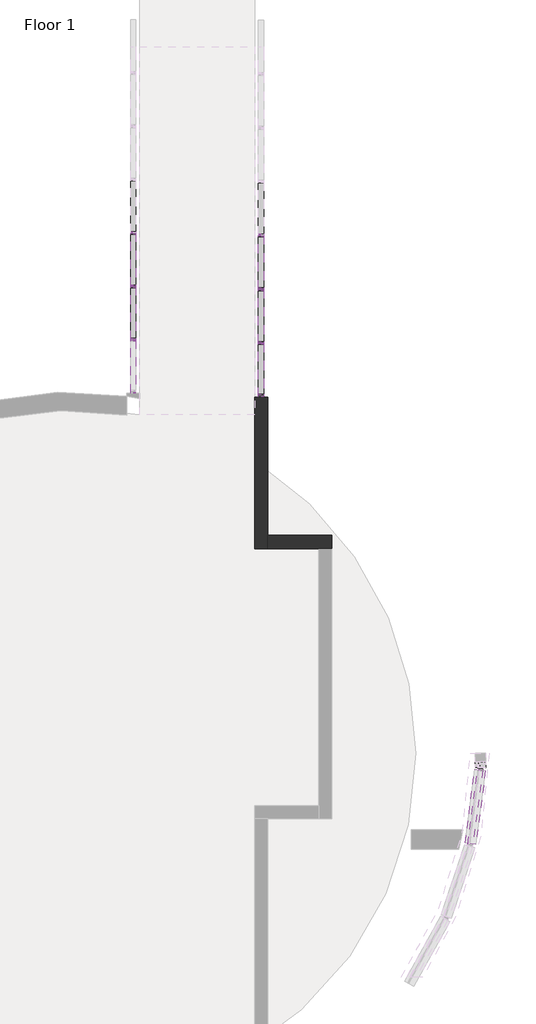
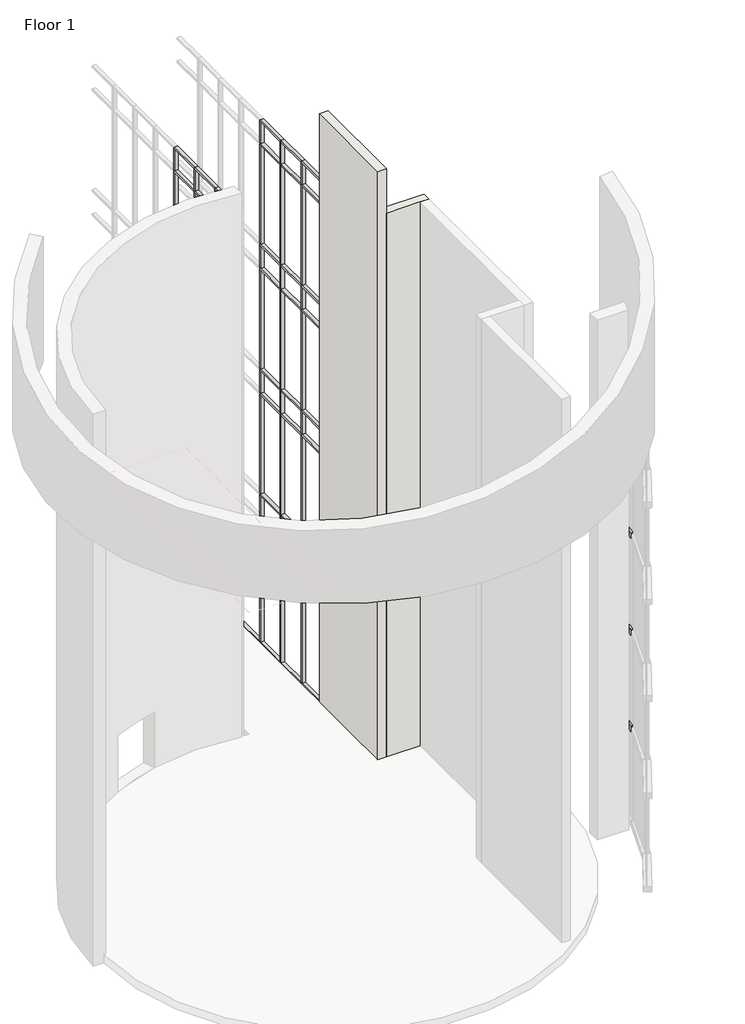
# One storey, part 7 of 11: 112 members, 2 walls.
"""IFC4 building model written with IfcOpenShell, lengths in millimetres."""

from ifc_helpers import new_model, si_unit, origin, place, context, project, spatial, faceted_brep, transform, mapped, element, save
from components import member_5d07894b, member_c86c7f77, member_60e3aab2, member_3ba9e939, member_ad567e07, member_7db1855a, member_5783932f, member_98b79ab6, member_810865a4, member_b9454cfc, member_c17f1be2, member_d2e7e466, member_bbf28ac8, member_5c8c9790, member_93925f5f, member_707c4438

model = new_model("IFC4")

# Units and contexts
model_context = context("Model", 3, world=origin())
ifc_project = project(units=[si_unit("LENGTHUNIT", "METRE", prefix="MILLI")], contexts=[model_context])

# Site, building, storey
site = spatial("IfcSite", under=ifc_project)
building = spatial("IfcBuilding", under=site)
storey = spatial("IfcBuildingStorey", under=building, Name="Floor 1", Elevation=0.0)

# Members
placement = place(None, origin())
member_shape = member_5d07894b(model_context)
element("IfcMember", 1, ObjectType="Rectangular Mullion1 : 2.5\" x 5\" rectangular", at=placement, inside=storey, context=model_context, shape_type="MappedRepresentation", body=[
    mapped(member_shape, transform((10878.8276119, 30390.311889, -88.9), x_axis=(0.0, 1.0, 0.0), y_axis=(1.0, 0.0, 0.0), z_axis=(0.0, 0.0, -1.0))),
])
element("IfcMember", 2, ObjectType="Rectangular Mullion1 : 2.5\" x 5\" rectangular", at=placement, inside=storey, context=model_context, shape_type="MappedRepresentation", body=[
    mapped(member_shape, transform((10878.8276119, 29107.611889, -88.9), x_axis=(0.0, 1.0, 0.0), y_axis=(1.0, 0.0, 0.0), z_axis=(0.0, 0.0, -1.0))),
])
element("IfcMember", 3, ObjectType="Rectangular Mullion1 : 2.5\" x 5\" rectangular", at=placement, inside=storey, context=model_context, shape_type="MappedRepresentation", body=[
    mapped(member_shape, transform((10878.8276119, 31673.011889, -88.9), x_axis=(0.0, 1.0, 0.0), y_axis=(1.0, 0.0, 0.0), z_axis=(0.0, 0.0, -1.0))),
])
element("IfcMember", 4, ObjectType="Rectangular Mullion1 : 2.5\" x 5\" rectangular", at=placement, inside=storey, context=model_context, shape_type="MappedRepresentation", body=[
    mapped(member_shape, transform((7830.8276119, 30460.5181066, -88.9), x_axis=(0.0, 1.0, 0.0), y_axis=(1.0, 0.0, 0.0), z_axis=(0.0, 0.0, -1.0))),
])
element("IfcMember", 5, ObjectType="Rectangular Mullion1 : 2.5\" x 5\" rectangular", at=placement, inside=storey, context=model_context, shape_type="MappedRepresentation", body=[
    mapped(member_shape, transform((7830.8276119, 31731.5170704, -88.9), x_axis=(0.0, 1.0, 0.0), y_axis=(1.0, 0.0, 0.0), z_axis=(0.0, 0.0, -1.0))),
])
member_2_shape = member_c86c7f77(model_context)
element("IfcMember", 6, ObjectType="Rectangular Mullion1 : 2.5\" x 5\" rectangular", at=placement, inside=storey, context=model_context, shape_type="MappedRepresentation", body=[
    mapped(member_2_shape, transform((7830.8276119, 29189.5191429, 4572.0), x_axis=(0.0, 0.0, 1.0), y_axis=(1.0, 0.0, 0.0), z_axis=(0.0, 1.0, 0.0))),
])
element("IfcMember", 7, ObjectType="Rectangular Mullion1 : 2.5\" x 5\" rectangular", at=placement, inside=storey, context=model_context, shape_type="MappedRepresentation", body=[
    mapped(member_2_shape, transform((7830.8276119, 31731.5170704, 5486.4), x_axis=(0.0, 0.0, 1.0), y_axis=(1.0, 0.0, 0.0), z_axis=(0.0, 1.0, 0.0))),
])
element("IfcMember", 8, ObjectType="Rectangular Mullion1 : 2.5\" x 5\" rectangular", at=placement, inside=storey, context=model_context, shape_type="MappedRepresentation", body=[
    mapped(member_2_shape, transform((7830.8276119, 30460.5181066, 5486.4), x_axis=(0.0, 0.0, 1.0), y_axis=(1.0, 0.0, 0.0), z_axis=(0.0, 1.0, 0.0))),
])
element("IfcMember", 9, ObjectType="Rectangular Mullion1 : 2.5\" x 5\" rectangular", at=placement, inside=storey, context=model_context, shape_type="MappedRepresentation", body=[
    mapped(member_2_shape, transform((7830.8276119, 31731.5170704, 10210.8), x_axis=(0.0, 0.0, 1.0), y_axis=(1.0, 0.0, 0.0), z_axis=(0.0, 1.0, 0.0))),
])
element("IfcMember", 10, ObjectType="Rectangular Mullion1 : 2.5\" x 5\" rectangular", at=placement, inside=storey, context=model_context, shape_type="MappedRepresentation", body=[
    mapped(member_2_shape, transform((7830.8276119, 30460.5181066, 10210.8), x_axis=(0.0, 0.0, 1.0), y_axis=(1.0, 0.0, 0.0), z_axis=(0.0, 1.0, 0.0))),
])
element("IfcMember", 11, ObjectType="Rectangular Mullion1 : 2.5\" x 5\" rectangular", at=placement, inside=storey, context=model_context, shape_type="MappedRepresentation", body=[
    mapped(member_2_shape, transform((7830.8276119, 31731.5170704, 14935.2), x_axis=(0.0, 0.0, 1.0), y_axis=(1.0, 0.0, 0.0), z_axis=(0.0, 1.0, 0.0))),
])
element("IfcMember", 12, ObjectType="Rectangular Mullion1 : 2.5\" x 5\" rectangular", at=placement, inside=storey, context=model_context, shape_type="MappedRepresentation", body=[
    mapped(member_2_shape, transform((7830.8276119, 30460.5181066, 14935.2), x_axis=(0.0, 0.0, 1.0), y_axis=(1.0, 0.0, 0.0), z_axis=(0.0, 1.0, 0.0))),
])
element("IfcMember", 13, ObjectType="Rectangular Mullion1 : 2.5\" x 5\" rectangular", at=placement, inside=storey, context=model_context, shape_type="MappedRepresentation", body=[
    mapped(member_2_shape, transform((7830.8276119, 31731.5170704, 18745.2), x_axis=(0.0, 0.0, 1.0), y_axis=(1.0, 0.0, 0.0), z_axis=(0.0, 1.0, 0.0))),
])
element("IfcMember", 14, ObjectType="Rectangular Mullion1 : 2.5\" x 5\" rectangular", at=placement, inside=storey, context=model_context, shape_type="MappedRepresentation", body=[
    mapped(member_2_shape, transform((7830.8276119, 30460.5181066, 18745.2), x_axis=(0.0, 0.0, 1.0), y_axis=(1.0, 0.0, 0.0), z_axis=(0.0, 1.0, 0.0))),
])
element("IfcMember", 15, ObjectType="Rectangular Mullion1 : 2.5\" x 5\" rectangular", at=placement, inside=storey, context=model_context, shape_type="MappedRepresentation", body=[
    mapped(member_2_shape, transform((7830.8276119, 31731.5170704, 14020.8), x_axis=(0.0, 0.0, 1.0), y_axis=(1.0, 0.0, 0.0), z_axis=(0.0, 1.0, 0.0))),
])
element("IfcMember", 16, ObjectType="Rectangular Mullion1 : 2.5\" x 5\" rectangular", at=placement, inside=storey, context=model_context, shape_type="MappedRepresentation", body=[
    mapped(member_2_shape, transform((7830.8276119, 30460.5181066, 14020.8), x_axis=(0.0, 0.0, 1.0), y_axis=(1.0, 0.0, 0.0), z_axis=(0.0, 1.0, 0.0))),
])
element("IfcMember", 17, ObjectType="Rectangular Mullion1 : 2.5\" x 5\" rectangular", at=placement, inside=storey, context=model_context, shape_type="MappedRepresentation", body=[
    mapped(member_2_shape, transform((7830.8276119, 31731.5170704, 9296.4), x_axis=(0.0, 0.0, 1.0), y_axis=(1.0, 0.0, 0.0), z_axis=(0.0, 1.0, 0.0))),
])
element("IfcMember", 18, ObjectType="Rectangular Mullion1 : 2.5\" x 5\" rectangular", at=placement, inside=storey, context=model_context, shape_type="MappedRepresentation", body=[
    mapped(member_2_shape, transform((7830.8276119, 30460.5181066, 9296.4), x_axis=(0.0, 0.0, 1.0), y_axis=(1.0, 0.0, 0.0), z_axis=(0.0, 1.0, 0.0))),
])
element("IfcMember", 19, ObjectType="Rectangular Mullion1 : 2.5\" x 5\" rectangular", at=placement, inside=storey, context=model_context, shape_type="MappedRepresentation", body=[
    mapped(member_2_shape, transform((7830.8276119, 31731.5170704, 4572.0), x_axis=(0.0, 0.0, 1.0), y_axis=(1.0, 0.0, 0.0), z_axis=(0.0, 1.0, 0.0))),
])
element("IfcMember", 20, ObjectType="Rectangular Mullion1 : 2.5\" x 5\" rectangular", at=placement, inside=storey, context=model_context, shape_type="MappedRepresentation", body=[
    mapped(member_2_shape, transform((7830.8276119, 30460.5181066, 4572.0), x_axis=(0.0, 0.0, 1.0), y_axis=(1.0, 0.0, 0.0), z_axis=(0.0, 1.0, 0.0))),
])
member_3_shape = member_60e3aab2(model_context)
element("IfcMember", 21, ObjectType="Rectangular Mullion1 : 2.5\" x 5\" rectangular", at=placement, inside=storey, context=model_context, shape_type="MappedRepresentation", body=[
    mapped(member_3_shape, transform((7830.8276119, 30460.5181066, -152.4), x_axis=(0.0, 0.0, -1.0), y_axis=(1.0, 0.0, 0.0), z_axis=(0.0, -1.0, 0.0))),
])
element("IfcMember", 22, ObjectType="Rectangular Mullion1 : 2.5\" x 5\" rectangular", at=placement, inside=storey, context=model_context, shape_type="MappedRepresentation", body=[
    mapped(member_3_shape, transform((7830.8276119, 31731.5170704, -152.4), x_axis=(0.0, 0.0, -1.0), y_axis=(1.0, 0.0, 0.0), z_axis=(0.0, -1.0, 0.0))),
])
element("IfcMember", 23, ObjectType="Rectangular Mullion1 : 2.5\" x 5\" rectangular", at=placement, inside=storey, context=model_context, shape_type="MappedRepresentation", body=[
    mapped(member_3_shape, transform((7830.8276119, 29189.5191429, -152.4), x_axis=(0.0, 0.0, -1.0), y_axis=(1.0, 0.0, 0.0), z_axis=(0.0, -1.0, 0.0))),
])
element("IfcMember", 24, ObjectType="Rectangular Mullion1 : 2.5\" x 5\" rectangular", at=placement, inside=storey, context=model_context, shape_type="MappedRepresentation", body=[
    mapped(member_3_shape, transform((7830.8276119, 30460.5181066, 19659.6), x_axis=(0.0, 0.0, 1.0), y_axis=(1.0, 0.0, 0.0), z_axis=(0.0, 1.0, 0.0))),
])
element("IfcMember", 25, ObjectType="Rectangular Mullion1 : 2.5\" x 5\" rectangular", at=placement, inside=storey, context=model_context, shape_type="MappedRepresentation", body=[
    mapped(member_3_shape, transform((7830.8276119, 31731.5170704, 19659.6), x_axis=(0.0, 0.0, 1.0), y_axis=(1.0, 0.0, 0.0), z_axis=(0.0, 1.0, 0.0))),
])
element("IfcMember", 26, ObjectType="Rectangular Mullion1 : 2.5\" x 5\" rectangular", at=placement, inside=storey, context=model_context, shape_type="MappedRepresentation", body=[
    mapped(member_3_shape, transform((7830.8276119, 29189.5191429, 19659.6), x_axis=(0.0, 0.0, 1.0), y_axis=(1.0, 0.0, 0.0), z_axis=(0.0, 1.0, 0.0))),
])
member_4_shape = member_3ba9e939(model_context)
element("IfcMember", 27, ObjectType="Rectangular Mullion1 : 2.5\" x 5\" rectangular", at=placement, inside=storey, context=model_context, shape_type="MappedRepresentation", body=[
    mapped(member_4_shape, transform((10878.8276119, 30390.311889, 14966.95), x_axis=(0.0, 1.0, 0.0), y_axis=(1.0, 0.0, 0.0), z_axis=(0.0, 0.0, -1.0))),
])
element("IfcMember", 28, ObjectType="Rectangular Mullion1 : 2.5\" x 5\" rectangular", at=placement, inside=storey, context=model_context, shape_type="MappedRepresentation", body=[
    mapped(member_4_shape, transform((10878.8276119, 30390.311889, 10242.55), x_axis=(0.0, 1.0, 0.0), y_axis=(1.0, 0.0, 0.0), z_axis=(0.0, 0.0, -1.0))),
])
element("IfcMember", 29, ObjectType="Rectangular Mullion1 : 2.5\" x 5\" rectangular", at=placement, inside=storey, context=model_context, shape_type="MappedRepresentation", body=[
    mapped(member_4_shape, transform((10878.8276119, 30390.311889, 5518.15), x_axis=(0.0, 1.0, 0.0), y_axis=(1.0, 0.0, 0.0), z_axis=(0.0, 0.0, -1.0))),
])
element("IfcMember", 30, ObjectType="Rectangular Mullion1 : 2.5\" x 5\" rectangular", at=placement, inside=storey, context=model_context, shape_type="MappedRepresentation", body=[
    mapped(member_4_shape, transform((10878.8276119, 29107.611889, 14966.95), x_axis=(0.0, 1.0, 0.0), y_axis=(1.0, 0.0, 0.0), z_axis=(0.0, 0.0, -1.0))),
])
element("IfcMember", 31, ObjectType="Rectangular Mullion1 : 2.5\" x 5\" rectangular", at=placement, inside=storey, context=model_context, shape_type="MappedRepresentation", body=[
    mapped(member_4_shape, transform((10878.8276119, 29107.611889, 10242.55), x_axis=(0.0, 1.0, 0.0), y_axis=(1.0, 0.0, 0.0), z_axis=(0.0, 0.0, -1.0))),
])
element("IfcMember", 32, ObjectType="Rectangular Mullion1 : 2.5\" x 5\" rectangular", at=placement, inside=storey, context=model_context, shape_type="MappedRepresentation", body=[
    mapped(member_4_shape, transform((10878.8276119, 29107.611889, 5518.15), x_axis=(0.0, 1.0, 0.0), y_axis=(1.0, 0.0, 0.0), z_axis=(0.0, 0.0, -1.0))),
])
element("IfcMember", 33, ObjectType="Rectangular Mullion1 : 2.5\" x 5\" rectangular", at=placement, inside=storey, context=model_context, shape_type="MappedRepresentation", body=[
    mapped(member_4_shape, transform((10878.8276119, 31673.011889, 14966.95), x_axis=(0.0, 1.0, 0.0), y_axis=(1.0, 0.0, 0.0), z_axis=(0.0, 0.0, -1.0))),
])
element("IfcMember", 34, ObjectType="Rectangular Mullion1 : 2.5\" x 5\" rectangular", at=placement, inside=storey, context=model_context, shape_type="MappedRepresentation", body=[
    mapped(member_4_shape, transform((10878.8276119, 31673.011889, 10242.55), x_axis=(0.0, 1.0, 0.0), y_axis=(1.0, 0.0, 0.0), z_axis=(0.0, 0.0, -1.0))),
])
element("IfcMember", 35, ObjectType="Rectangular Mullion1 : 2.5\" x 5\" rectangular", at=placement, inside=storey, context=model_context, shape_type="MappedRepresentation", body=[
    mapped(member_4_shape, transform((10878.8276119, 31673.011889, 5518.15), x_axis=(0.0, 1.0, 0.0), y_axis=(1.0, 0.0, 0.0), z_axis=(0.0, 0.0, -1.0))),
])
element("IfcMember", 36, ObjectType="Rectangular Mullion1 : 2.5\" x 5\" rectangular", at=placement, inside=storey, context=model_context, shape_type="MappedRepresentation", body=[
    mapped(member_4_shape, transform((7830.8276119, 30460.5181066, 5518.15), x_axis=(0.0, 1.0, 0.0), y_axis=(1.0, 0.0, 0.0), z_axis=(0.0, 0.0, -1.0))),
])
element("IfcMember", 37, ObjectType="Rectangular Mullion1 : 2.5\" x 5\" rectangular", at=placement, inside=storey, context=model_context, shape_type="MappedRepresentation", body=[
    mapped(member_4_shape, transform((7830.8276119, 30460.5181066, 10242.55), x_axis=(0.0, 1.0, 0.0), y_axis=(1.0, 0.0, 0.0), z_axis=(0.0, 0.0, -1.0))),
])
element("IfcMember", 38, ObjectType="Rectangular Mullion1 : 2.5\" x 5\" rectangular", at=placement, inside=storey, context=model_context, shape_type="MappedRepresentation", body=[
    mapped(member_4_shape, transform((7830.8276119, 30460.5181066, 14966.95), x_axis=(0.0, 1.0, 0.0), y_axis=(1.0, 0.0, 0.0), z_axis=(0.0, 0.0, -1.0))),
])
element("IfcMember", 39, ObjectType="Rectangular Mullion1 : 2.5\" x 5\" rectangular", at=placement, inside=storey, context=model_context, shape_type="MappedRepresentation", body=[
    mapped(member_4_shape, transform((7830.8276119, 31731.5170704, 5518.15), x_axis=(0.0, 1.0, 0.0), y_axis=(1.0, 0.0, 0.0), z_axis=(0.0, 0.0, -1.0))),
])
element("IfcMember", 40, ObjectType="Rectangular Mullion1 : 2.5\" x 5\" rectangular", at=placement, inside=storey, context=model_context, shape_type="MappedRepresentation", body=[
    mapped(member_4_shape, transform((7830.8276119, 31731.5170704, 10242.55), x_axis=(0.0, 1.0, 0.0), y_axis=(1.0, 0.0, 0.0), z_axis=(0.0, 0.0, -1.0))),
])
element("IfcMember", 41, ObjectType="Rectangular Mullion1 : 2.5\" x 5\" rectangular", at=placement, inside=storey, context=model_context, shape_type="MappedRepresentation", body=[
    mapped(member_4_shape, transform((7830.8276119, 31731.5170704, 14966.95), x_axis=(0.0, 1.0, 0.0), y_axis=(1.0, 0.0, 0.0), z_axis=(0.0, 0.0, -1.0))),
])
element("IfcMember", 42, ObjectType="Rectangular Mullion1 : 2.5\" x 5\" rectangular", at=placement, inside=storey, context=model_context, shape_type="MappedRepresentation", body=[
    mapped(member_4_shape, transform((7830.8276119, 29189.5191429, 5518.15), x_axis=(0.0, 1.0, 0.0), y_axis=(1.0, 0.0, 0.0), z_axis=(0.0, 0.0, -1.0))),
])
element("IfcMember", 43, ObjectType="Rectangular Mullion1 : 2.5\" x 5\" rectangular", at=placement, inside=storey, context=model_context, shape_type="MappedRepresentation", body=[
    mapped(member_4_shape, transform((7830.8276119, 29189.5191429, 10242.55), x_axis=(0.0, 1.0, 0.0), y_axis=(1.0, 0.0, 0.0), z_axis=(0.0, 0.0, -1.0))),
])
element("IfcMember", 44, ObjectType="Rectangular Mullion1 : 2.5\" x 5\" rectangular", at=placement, inside=storey, context=model_context, shape_type="MappedRepresentation", body=[
    mapped(member_4_shape, transform((7830.8276119, 29189.5191429, 14966.95), x_axis=(0.0, 1.0, 0.0), y_axis=(1.0, 0.0, 0.0), z_axis=(0.0, 0.0, -1.0))),
])
member_5_shape = member_ad567e07(model_context)
element("IfcMember", 45, ObjectType="Rectangular Mullion1 : 2.5\" x 5\" rectangular", at=placement, inside=storey, context=model_context, shape_type="MappedRepresentation", body=[
    mapped(member_5_shape, transform((10878.8276119, 30390.311889, 18776.95), x_axis=(0.0, 1.0, 0.0), y_axis=(1.0, 0.0, 0.0), z_axis=(0.0, 0.0, -1.0))),
])
element("IfcMember", 46, ObjectType="Rectangular Mullion1 : 2.5\" x 5\" rectangular", at=placement, inside=storey, context=model_context, shape_type="MappedRepresentation", body=[
    mapped(member_5_shape, transform((10878.8276119, 29107.611889, 18776.95), x_axis=(0.0, 1.0, 0.0), y_axis=(1.0, 0.0, 0.0), z_axis=(0.0, 0.0, -1.0))),
])
element("IfcMember", 47, ObjectType="Rectangular Mullion1 : 2.5\" x 5\" rectangular", at=placement, inside=storey, context=model_context, shape_type="MappedRepresentation", body=[
    mapped(member_5_shape, transform((10878.8276119, 31673.011889, 18776.95), x_axis=(0.0, 1.0, 0.0), y_axis=(1.0, 0.0, 0.0), z_axis=(0.0, 0.0, -1.0))),
])
element("IfcMember", 48, ObjectType="Rectangular Mullion1 : 2.5\" x 5\" rectangular", at=placement, inside=storey, context=model_context, shape_type="MappedRepresentation", body=[
    mapped(member_5_shape, transform((7830.8276119, 30460.5181066, 18776.95), x_axis=(0.0, 1.0, 0.0), y_axis=(1.0, 0.0, 0.0), z_axis=(0.0, 0.0, -1.0))),
])
element("IfcMember", 49, ObjectType="Rectangular Mullion1 : 2.5\" x 5\" rectangular", at=placement, inside=storey, context=model_context, shape_type="MappedRepresentation", body=[
    mapped(member_5_shape, transform((7830.8276119, 31731.5170704, 18776.95), x_axis=(0.0, 1.0, 0.0), y_axis=(1.0, 0.0, 0.0), z_axis=(0.0, 0.0, -1.0))),
])
element("IfcMember", 50, ObjectType="Rectangular Mullion1 : 2.5\" x 5\" rectangular", at=placement, inside=storey, context=model_context, shape_type="MappedRepresentation", body=[
    mapped(member_5_shape, transform((7830.8276119, 29189.5191429, 18776.95), x_axis=(0.0, 1.0, 0.0), y_axis=(1.0, 0.0, 0.0), z_axis=(0.0, 0.0, -1.0))),
])
member_6_shape = member_7db1855a(model_context)
element("IfcMember", 51, ObjectType="Rectangular Mullion1 : 2.5\" x 5\" rectangular", at=placement, inside=storey, context=model_context, shape_type="MappedRepresentation", body=[
    mapped(member_6_shape, transform((10878.8276119, 30390.311889, 9328.15), x_axis=(0.0, 1.0, 0.0), y_axis=(1.0, 0.0, 0.0), z_axis=(0.0, 0.0, -1.0))),
])
element("IfcMember", 52, ObjectType="Rectangular Mullion1 : 2.5\" x 5\" rectangular", at=placement, inside=storey, context=model_context, shape_type="MappedRepresentation", body=[
    mapped(member_6_shape, transform((10878.8276119, 30390.311889, 4603.75), x_axis=(0.0, 1.0, 0.0), y_axis=(1.0, 0.0, 0.0), z_axis=(0.0, 0.0, -1.0))),
])
element("IfcMember", 53, ObjectType="Rectangular Mullion1 : 2.5\" x 5\" rectangular", at=placement, inside=storey, context=model_context, shape_type="MappedRepresentation", body=[
    mapped(member_6_shape, transform((10878.8276119, 30390.311889, 14052.55), x_axis=(0.0, 1.0, 0.0), y_axis=(1.0, 0.0, 0.0), z_axis=(0.0, 0.0, -1.0))),
])
element("IfcMember", 54, ObjectType="Rectangular Mullion1 : 2.5\" x 5\" rectangular", at=placement, inside=storey, context=model_context, shape_type="MappedRepresentation", body=[
    mapped(member_6_shape, transform((10878.8276119, 29107.611889, 9328.15), x_axis=(0.0, 1.0, 0.0), y_axis=(1.0, 0.0, 0.0), z_axis=(0.0, 0.0, -1.0))),
])
element("IfcMember", 55, ObjectType="Rectangular Mullion1 : 2.5\" x 5\" rectangular", at=placement, inside=storey, context=model_context, shape_type="MappedRepresentation", body=[
    mapped(member_6_shape, transform((10878.8276119, 29107.611889, 4603.75), x_axis=(0.0, 1.0, 0.0), y_axis=(1.0, 0.0, 0.0), z_axis=(0.0, 0.0, -1.0))),
])
element("IfcMember", 56, ObjectType="Rectangular Mullion1 : 2.5\" x 5\" rectangular", at=placement, inside=storey, context=model_context, shape_type="MappedRepresentation", body=[
    mapped(member_6_shape, transform((10878.8276119, 29107.611889, 14052.55), x_axis=(0.0, 1.0, 0.0), y_axis=(1.0, 0.0, 0.0), z_axis=(0.0, 0.0, -1.0))),
])
element("IfcMember", 57, ObjectType="Rectangular Mullion1 : 2.5\" x 5\" rectangular", at=placement, inside=storey, context=model_context, shape_type="MappedRepresentation", body=[
    mapped(member_6_shape, transform((10878.8276119, 31673.011889, 9328.15), x_axis=(0.0, 1.0, 0.0), y_axis=(1.0, 0.0, 0.0), z_axis=(0.0, 0.0, -1.0))),
])
element("IfcMember", 58, ObjectType="Rectangular Mullion1 : 2.5\" x 5\" rectangular", at=placement, inside=storey, context=model_context, shape_type="MappedRepresentation", body=[
    mapped(member_6_shape, transform((10878.8276119, 31673.011889, 4603.75), x_axis=(0.0, 1.0, 0.0), y_axis=(1.0, 0.0, 0.0), z_axis=(0.0, 0.0, -1.0))),
])
element("IfcMember", 59, ObjectType="Rectangular Mullion1 : 2.5\" x 5\" rectangular", at=placement, inside=storey, context=model_context, shape_type="MappedRepresentation", body=[
    mapped(member_6_shape, transform((10878.8276119, 31673.011889, 14052.55), x_axis=(0.0, 1.0, 0.0), y_axis=(1.0, 0.0, 0.0), z_axis=(0.0, 0.0, -1.0))),
])
element("IfcMember", 60, ObjectType="Rectangular Mullion1 : 2.5\" x 5\" rectangular", at=placement, inside=storey, context=model_context, shape_type="MappedRepresentation", body=[
    mapped(member_6_shape, transform((7830.8276119, 30460.5181066, 14052.55), x_axis=(0.0, 1.0, 0.0), y_axis=(1.0, 0.0, 0.0), z_axis=(0.0, 0.0, -1.0))),
])
element("IfcMember", 61, ObjectType="Rectangular Mullion1 : 2.5\" x 5\" rectangular", at=placement, inside=storey, context=model_context, shape_type="MappedRepresentation", body=[
    mapped(member_6_shape, transform((7830.8276119, 30460.5181066, 9328.15), x_axis=(0.0, 1.0, 0.0), y_axis=(1.0, 0.0, 0.0), z_axis=(0.0, 0.0, -1.0))),
])
element("IfcMember", 62, ObjectType="Rectangular Mullion1 : 2.5\" x 5\" rectangular", at=placement, inside=storey, context=model_context, shape_type="MappedRepresentation", body=[
    mapped(member_6_shape, transform((7830.8276119, 30460.5181066, 4603.75), x_axis=(0.0, 1.0, 0.0), y_axis=(1.0, 0.0, 0.0), z_axis=(0.0, 0.0, -1.0))),
])
element("IfcMember", 63, ObjectType="Rectangular Mullion1 : 2.5\" x 5\" rectangular", at=placement, inside=storey, context=model_context, shape_type="MappedRepresentation", body=[
    mapped(member_6_shape, transform((7830.8276119, 31731.5170704, 14052.55), x_axis=(0.0, 1.0, 0.0), y_axis=(1.0, 0.0, 0.0), z_axis=(0.0, 0.0, -1.0))),
])
element("IfcMember", 64, ObjectType="Rectangular Mullion1 : 2.5\" x 5\" rectangular", at=placement, inside=storey, context=model_context, shape_type="MappedRepresentation", body=[
    mapped(member_6_shape, transform((7830.8276119, 31731.5170704, 9328.15), x_axis=(0.0, 1.0, 0.0), y_axis=(1.0, 0.0, 0.0), z_axis=(0.0, 0.0, -1.0))),
])
element("IfcMember", 65, ObjectType="Rectangular Mullion1 : 2.5\" x 5\" rectangular", at=placement, inside=storey, context=model_context, shape_type="MappedRepresentation", body=[
    mapped(member_6_shape, transform((7830.8276119, 31731.5170704, 4603.75), x_axis=(0.0, 1.0, 0.0), y_axis=(1.0, 0.0, 0.0), z_axis=(0.0, 0.0, -1.0))),
])
element("IfcMember", 66, ObjectType="Rectangular Mullion1 : 2.5\" x 5\" rectangular", at=placement, inside=storey, context=model_context, shape_type="MappedRepresentation", body=[
    mapped(member_6_shape, transform((7830.8276119, 29189.5191429, 14052.55), x_axis=(0.0, 1.0, 0.0), y_axis=(1.0, 0.0, 0.0), z_axis=(0.0, 0.0, -1.0))),
])
element("IfcMember", 67, ObjectType="Rectangular Mullion1 : 2.5\" x 5\" rectangular", at=placement, inside=storey, context=model_context, shape_type="MappedRepresentation", body=[
    mapped(member_6_shape, transform((7830.8276119, 29189.5191429, 9328.15), x_axis=(0.0, 1.0, 0.0), y_axis=(1.0, 0.0, 0.0), z_axis=(0.0, 0.0, -1.0))),
])
element("IfcMember", 68, ObjectType="Rectangular Mullion1 : 2.5\" x 5\" rectangular", at=placement, inside=storey, context=model_context, shape_type="MappedRepresentation", body=[
    mapped(member_6_shape, transform((7830.8276119, 29189.5191429, 4603.75), x_axis=(0.0, 1.0, 0.0), y_axis=(1.0, 0.0, 0.0), z_axis=(0.0, 0.0, -1.0))),
])
member_7_shape = member_5783932f(model_context)
element("IfcMember", 69, ObjectType="Rectangular Mullion1 : 2.5\" x 5\" rectangular", at=placement, inside=storey, context=model_context, shape_type="MappedRepresentation", body=[
    mapped(member_7_shape, transform((10878.8276119, 27824.911889, -152.4), x_axis=(0.0, 0.0, -1.0), y_axis=(1.0, 0.0, 0.0), z_axis=(0.0, -1.0, 0.0))),
])
member_8_shape = member_98b79ab6(model_context)
element("IfcMember", 70, ObjectType="Rectangular Mullion1 : 2.5\" x 5\" rectangular", at=placement, inside=storey, context=model_context, shape_type="MappedRepresentation", body=[
    mapped(member_8_shape, transform((10878.8276119, 29107.611889, 14935.2), x_axis=(0.0, 0.0, 1.0), y_axis=(1.0, 0.0, 0.0), z_axis=(0.0, 1.0, 0.0))),
])
element("IfcMember", 71, ObjectType="Rectangular Mullion1 : 2.5\" x 5\" rectangular", at=placement, inside=storey, context=model_context, shape_type="MappedRepresentation", body=[
    mapped(member_8_shape, transform((10878.8276119, 29107.611889, 10210.8), x_axis=(0.0, 0.0, 1.0), y_axis=(1.0, 0.0, 0.0), z_axis=(0.0, 1.0, 0.0))),
])
element("IfcMember", 72, ObjectType="Rectangular Mullion1 : 2.5\" x 5\" rectangular", at=placement, inside=storey, context=model_context, shape_type="MappedRepresentation", body=[
    mapped(member_8_shape, transform((10878.8276119, 29107.611889, 5486.4), x_axis=(0.0, 0.0, 1.0), y_axis=(1.0, 0.0, 0.0), z_axis=(0.0, 1.0, 0.0))),
])
element("IfcMember", 73, ObjectType="Rectangular Mullion1 : 2.5\" x 5\" rectangular", at=placement, inside=storey, context=model_context, shape_type="MappedRepresentation", body=[
    mapped(member_8_shape, transform((10878.8276119, 29107.611889, 9296.4), x_axis=(0.0, 0.0, 1.0), y_axis=(1.0, 0.0, 0.0), z_axis=(0.0, 1.0, 0.0))),
])
element("IfcMember", 74, ObjectType="Rectangular Mullion1 : 2.5\" x 5\" rectangular", at=placement, inside=storey, context=model_context, shape_type="MappedRepresentation", body=[
    mapped(member_8_shape, transform((10878.8276119, 29107.611889, 4572.0), x_axis=(0.0, 0.0, 1.0), y_axis=(1.0, 0.0, 0.0), z_axis=(0.0, 1.0, 0.0))),
])
element("IfcMember", 75, ObjectType="Rectangular Mullion1 : 2.5\" x 5\" rectangular", at=placement, inside=storey, context=model_context, shape_type="MappedRepresentation", body=[
    mapped(member_8_shape, transform((10878.8276119, 29107.611889, 14020.8), x_axis=(0.0, 0.0, 1.0), y_axis=(1.0, 0.0, 0.0), z_axis=(0.0, 1.0, 0.0))),
])
element("IfcMember", 76, ObjectType="Rectangular Mullion1 : 2.5\" x 5\" rectangular", at=placement, inside=storey, context=model_context, shape_type="MappedRepresentation", body=[
    mapped(member_8_shape, transform((10878.8276119, 29107.611889, 18745.2), x_axis=(0.0, 0.0, 1.0), y_axis=(1.0, 0.0, 0.0), z_axis=(0.0, 1.0, 0.0))),
])
element("IfcMember", 77, ObjectType="Rectangular Mullion1 : 2.5\" x 5\" rectangular", at=placement, inside=storey, context=model_context, shape_type="MappedRepresentation", body=[
    mapped(member_8_shape, transform((10878.8276119, 31673.011889, 14935.2), x_axis=(0.0, 0.0, 1.0), y_axis=(1.0, 0.0, 0.0), z_axis=(0.0, 1.0, 0.0))),
])
element("IfcMember", 78, ObjectType="Rectangular Mullion1 : 2.5\" x 5\" rectangular", at=placement, inside=storey, context=model_context, shape_type="MappedRepresentation", body=[
    mapped(member_8_shape, transform((10878.8276119, 30390.311889, 14935.2), x_axis=(0.0, 0.0, 1.0), y_axis=(1.0, 0.0, 0.0), z_axis=(0.0, 1.0, 0.0))),
])
element("IfcMember", 79, ObjectType="Rectangular Mullion1 : 2.5\" x 5\" rectangular", at=placement, inside=storey, context=model_context, shape_type="MappedRepresentation", body=[
    mapped(member_8_shape, transform((10878.8276119, 31673.011889, 10210.8), x_axis=(0.0, 0.0, 1.0), y_axis=(1.0, 0.0, 0.0), z_axis=(0.0, 1.0, 0.0))),
])
element("IfcMember", 80, ObjectType="Rectangular Mullion1 : 2.5\" x 5\" rectangular", at=placement, inside=storey, context=model_context, shape_type="MappedRepresentation", body=[
    mapped(member_8_shape, transform((10878.8276119, 30390.311889, 10210.8), x_axis=(0.0, 0.0, 1.0), y_axis=(1.0, 0.0, 0.0), z_axis=(0.0, 1.0, 0.0))),
])
element("IfcMember", 81, ObjectType="Rectangular Mullion1 : 2.5\" x 5\" rectangular", at=placement, inside=storey, context=model_context, shape_type="MappedRepresentation", body=[
    mapped(member_8_shape, transform((10878.8276119, 31673.011889, 5486.4), x_axis=(0.0, 0.0, 1.0), y_axis=(1.0, 0.0, 0.0), z_axis=(0.0, 1.0, 0.0))),
])
element("IfcMember", 82, ObjectType="Rectangular Mullion1 : 2.5\" x 5\" rectangular", at=placement, inside=storey, context=model_context, shape_type="MappedRepresentation", body=[
    mapped(member_8_shape, transform((10878.8276119, 30390.311889, 5486.4), x_axis=(0.0, 0.0, 1.0), y_axis=(1.0, 0.0, 0.0), z_axis=(0.0, 1.0, 0.0))),
])
element("IfcMember", 83, ObjectType="Rectangular Mullion1 : 2.5\" x 5\" rectangular", at=placement, inside=storey, context=model_context, shape_type="MappedRepresentation", body=[
    mapped(member_8_shape, transform((10878.8276119, 31673.011889, 9296.4), x_axis=(0.0, 0.0, 1.0), y_axis=(1.0, 0.0, 0.0), z_axis=(0.0, 1.0, 0.0))),
])
element("IfcMember", 84, ObjectType="Rectangular Mullion1 : 2.5\" x 5\" rectangular", at=placement, inside=storey, context=model_context, shape_type="MappedRepresentation", body=[
    mapped(member_8_shape, transform((10878.8276119, 30390.311889, 9296.4), x_axis=(0.0, 0.0, 1.0), y_axis=(1.0, 0.0, 0.0), z_axis=(0.0, 1.0, 0.0))),
])
element("IfcMember", 85, ObjectType="Rectangular Mullion1 : 2.5\" x 5\" rectangular", at=placement, inside=storey, context=model_context, shape_type="MappedRepresentation", body=[
    mapped(member_8_shape, transform((10878.8276119, 31673.011889, 4572.0), x_axis=(0.0, 0.0, 1.0), y_axis=(1.0, 0.0, 0.0), z_axis=(0.0, 1.0, 0.0))),
])
element("IfcMember", 86, ObjectType="Rectangular Mullion1 : 2.5\" x 5\" rectangular", at=placement, inside=storey, context=model_context, shape_type="MappedRepresentation", body=[
    mapped(member_8_shape, transform((10878.8276119, 30390.311889, 4572.0), x_axis=(0.0, 0.0, 1.0), y_axis=(1.0, 0.0, 0.0), z_axis=(0.0, 1.0, 0.0))),
])
element("IfcMember", 87, ObjectType="Rectangular Mullion1 : 2.5\" x 5\" rectangular", at=placement, inside=storey, context=model_context, shape_type="MappedRepresentation", body=[
    mapped(member_8_shape, transform((10878.8276119, 31673.011889, 14020.8), x_axis=(0.0, 0.0, 1.0), y_axis=(1.0, 0.0, 0.0), z_axis=(0.0, 1.0, 0.0))),
])
element("IfcMember", 88, ObjectType="Rectangular Mullion1 : 2.5\" x 5\" rectangular", at=placement, inside=storey, context=model_context, shape_type="MappedRepresentation", body=[
    mapped(member_8_shape, transform((10878.8276119, 30390.311889, 14020.8), x_axis=(0.0, 0.0, 1.0), y_axis=(1.0, 0.0, 0.0), z_axis=(0.0, 1.0, 0.0))),
])
element("IfcMember", 89, ObjectType="Rectangular Mullion1 : 2.5\" x 5\" rectangular", at=placement, inside=storey, context=model_context, shape_type="MappedRepresentation", body=[
    mapped(member_8_shape, transform((10878.8276119, 31673.011889, 18745.2), x_axis=(0.0, 0.0, 1.0), y_axis=(1.0, 0.0, 0.0), z_axis=(0.0, 1.0, 0.0))),
])
element("IfcMember", 90, ObjectType="Rectangular Mullion1 : 2.5\" x 5\" rectangular", at=placement, inside=storey, context=model_context, shape_type="MappedRepresentation", body=[
    mapped(member_8_shape, transform((10878.8276119, 30390.311889, 18745.2), x_axis=(0.0, 0.0, 1.0), y_axis=(1.0, 0.0, 0.0), z_axis=(0.0, 1.0, 0.0))),
])
element("IfcMember", 91, ObjectType="Rectangular Mullion1 : 2.5\" x 5\" rectangular", at=placement, inside=storey, context=model_context, shape_type="MappedRepresentation", body=[
    mapped(member_7_shape, transform((10878.8276119, 30390.311889, -152.4), x_axis=(0.0, 0.0, -1.0), y_axis=(1.0, 0.0, 0.0), z_axis=(0.0, -1.0, 0.0))),
])
element("IfcMember", 92, ObjectType="Rectangular Mullion1 : 2.5\" x 5\" rectangular", at=placement, inside=storey, context=model_context, shape_type="MappedRepresentation", body=[
    mapped(member_7_shape, transform((10878.8276119, 29107.611889, -152.4), x_axis=(0.0, 0.0, -1.0), y_axis=(1.0, 0.0, 0.0), z_axis=(0.0, -1.0, 0.0))),
])
element("IfcMember", 93, ObjectType="Rectangular Mullion1 : 2.5\" x 5\" rectangular", at=placement, inside=storey, context=model_context, shape_type="MappedRepresentation", body=[
    mapped(member_7_shape, transform((10878.8276119, 31673.011889, -152.4), x_axis=(0.0, 0.0, -1.0), y_axis=(1.0, 0.0, 0.0), z_axis=(0.0, -1.0, 0.0))),
])
element("IfcMember", 94, ObjectType="Rectangular Mullion1 : 2.5\" x 5\" rectangular", at=placement, inside=storey, context=model_context, shape_type="MappedRepresentation", body=[
    mapped(member_7_shape, transform((10878.8276119, 30390.311889, 19659.6), x_axis=(0.0, 0.0, 1.0), y_axis=(1.0, 0.0, 0.0), z_axis=(0.0, 1.0, 0.0))),
])
element("IfcMember", 95, ObjectType="Rectangular Mullion1 : 2.5\" x 5\" rectangular", at=placement, inside=storey, context=model_context, shape_type="MappedRepresentation", body=[
    mapped(member_7_shape, transform((10878.8276119, 31673.011889, 19659.6), x_axis=(0.0, 0.0, 1.0), y_axis=(1.0, 0.0, 0.0), z_axis=(0.0, 1.0, 0.0))),
])
element("IfcMember", 96, ObjectType="Rectangular Mullion1 : 2.5\" x 5\" rectangular", at=placement, inside=storey, context=model_context, shape_type="MappedRepresentation", body=[
    mapped(member_7_shape, transform((10878.8276119, 29107.611889, 19659.6), x_axis=(0.0, 0.0, 1.0), y_axis=(1.0, 0.0, 0.0), z_axis=(0.0, 1.0, 0.0))),
])
member_9_shape = member_810865a4(model_context)
element("IfcMember", 97, ObjectType="Rectangular Mullion1 : 2.5\" x 5\" rectangular", at=placement, inside=storey, context=model_context, shape_type="MappedRepresentation", body=[
    mapped(member_9_shape, transform((16100.9680149, 18967.1313281, 0.0), x_axis=(0.03847320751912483, 0.9992596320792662, 0.0), y_axis=(0.9992596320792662, -0.03847320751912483, 0.0), z_axis=(0.0, 0.0, -1.0))),
])
member_10_shape = member_b9454cfc(model_context)
element("IfcMember", 98, ObjectType="Rectangular Mullion1 : 2.5\" x 5\" rectangular", at=placement, inside=storey, context=model_context, shape_type="MappedRepresentation", body=[
    mapped(member_10_shape, transform((16096.7690235, 18935.6602148, 17373.6), x_axis=(0.0, 0.0, 1.0), y_axis=(0.9912161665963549, -0.13225169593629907, 0.0), z_axis=(0.13225169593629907, 0.9912161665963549, 0.0))),
])
element("IfcMember", 99, ObjectType="Rectangular Mullion1 : 2.5\" x 5\" rectangular", at=placement, inside=storey, context=model_context, shape_type="MappedRepresentation", body=[
    mapped(member_9_shape, transform((16100.9680149, 18967.1313281, 3657.6), x_axis=(0.03847320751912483, 0.9992596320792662, 0.0), y_axis=(0.9992596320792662, -0.03847320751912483, 0.0), z_axis=(0.0, 0.0, -1.0))),
])
member_11_shape = member_c17f1be2(model_context)
element("IfcMember", 100, ObjectType="Rectangular Mullion1 : 2.5\" x 5\" rectangular", at=placement, inside=storey, context=model_context, shape_type="MappedRepresentation", body=[
    mapped(member_11_shape, transform((10878.8276119, 27824.911889, 19596.1), x_axis=(0.0, -1.0, 0.0), y_axis=(1.0, 0.0, 0.0), z_axis=(0.0, 0.0, 1.0))),
])
member_12_shape = member_d2e7e466(model_context)
element("IfcMember", 101, ObjectType="Rectangular Mullion1 : 2.5\" x 5\" rectangular", at=placement, inside=storey, context=model_context, shape_type="MappedRepresentation", body=[
    mapped(member_12_shape, transform((10878.8276119, 27824.911889, 14903.45), x_axis=(0.0, -1.0, 0.0), y_axis=(1.0, 0.0, 0.0), z_axis=(0.0, 0.0, 1.0))),
])
element("IfcMember", 102, ObjectType="Rectangular Mullion1 : 2.5\" x 5\" rectangular", at=placement, inside=storey, context=model_context, shape_type="MappedRepresentation", body=[
    mapped(member_12_shape, transform((10878.8276119, 27824.911889, 10179.05), x_axis=(0.0, -1.0, 0.0), y_axis=(1.0, 0.0, 0.0), z_axis=(0.0, 0.0, 1.0))),
])
element("IfcMember", 103, ObjectType="Rectangular Mullion1 : 2.5\" x 5\" rectangular", at=placement, inside=storey, context=model_context, shape_type="MappedRepresentation", body=[
    mapped(member_12_shape, transform((10878.8276119, 27824.911889, 5454.65), x_axis=(0.0, -1.0, 0.0), y_axis=(1.0, 0.0, 0.0), z_axis=(0.0, 0.0, 1.0))),
])
member_13_shape = member_bbf28ac8(model_context)
element("IfcMember", 104, ObjectType="Rectangular Mullion1 : 2.5\" x 5\" rectangular", at=placement, inside=storey, context=model_context, shape_type="MappedRepresentation", body=[
    mapped(member_13_shape, transform((10878.8276119, 27824.911889, 9264.65), x_axis=(0.0, -1.0, 0.0), y_axis=(1.0, 0.0, 0.0), z_axis=(0.0, 0.0, 1.0))),
])
element("IfcMember", 105, ObjectType="Rectangular Mullion1 : 2.5\" x 5\" rectangular", at=placement, inside=storey, context=model_context, shape_type="MappedRepresentation", body=[
    mapped(member_13_shape, transform((10878.8276119, 27824.911889, 13989.05), x_axis=(0.0, -1.0, 0.0), y_axis=(1.0, 0.0, 0.0), z_axis=(0.0, 0.0, 1.0))),
])
element("IfcMember", 106, ObjectType="Rectangular Mullion1 : 2.5\" x 5\" rectangular", at=placement, inside=storey, context=model_context, shape_type="MappedRepresentation", body=[
    mapped(member_13_shape, transform((10878.8276119, 27824.911889, 18713.45), x_axis=(0.0, -1.0, 0.0), y_axis=(1.0, 0.0, 0.0), z_axis=(0.0, 0.0, 1.0))),
])
member_14_shape = member_5c8c9790(model_context)
element("IfcMember", 107, ObjectType="Rectangular Mullion1 : 2.5\" x 5\" rectangular", at=placement, inside=storey, context=model_context, shape_type="MappedRepresentation", body=[
    mapped(member_14_shape, transform((10878.8276119, 27824.911889, 4540.25), x_axis=(0.0, -1.0, 0.0), y_axis=(1.0, 0.0, 0.0), z_axis=(0.0, 0.0, 1.0))),
])
member_15_shape = member_93925f5f(model_context)
element("IfcMember", 108, ObjectType="Rectangular Mullion1 : 8\" x 10\" rectangular", at=placement, inside=storey, context=model_context, shape_type="MappedRepresentation", body=[
    mapped(member_15_shape, transform((16101.5788901, 18998.8754509, 0.0), x_axis=(0.0, 0.0, -1.0), y_axis=(0.9998148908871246, -0.019240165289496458, 0.0), z_axis=(-0.019240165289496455, -0.9998148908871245, 0.0))),
])
member_16_shape = member_707c4438(model_context)
element("IfcMember", 109, ObjectType="Rectangular Mullion1 : 8\" x 10\" rectangular", at=placement, inside=storey, context=model_context, shape_type="MappedRepresentation", body=[
    mapped(member_16_shape, transform((16096.7690235, 18935.6602148, 3657.6), x_axis=(0.0, 0.0, 1.0), y_axis=(0.9912161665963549, -0.13225169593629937, 0.0), z_axis=(0.13225169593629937, 0.9912161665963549, 0.0))),
])
element("IfcMember", 110, ObjectType="Rectangular Mullion1 : 8\" x 10\" rectangular", at=placement, inside=storey, context=model_context, shape_type="MappedRepresentation", body=[
    mapped(member_16_shape, transform((16096.7690235, 18935.6602148, 7315.2), x_axis=(0.0, 0.0, 1.0), y_axis=(0.9912161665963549, -0.13225169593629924, 0.0), z_axis=(0.13225169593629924, 0.9912161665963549, 0.0))),
])
element("IfcMember", 111, ObjectType="Rectangular Mullion1 : 8\" x 10\" rectangular", at=placement, inside=storey, context=model_context, shape_type="MappedRepresentation", body=[
    mapped(member_16_shape, transform((16096.7690235, 18935.6602148, 10972.8), x_axis=(0.0, 0.0, 1.0), y_axis=(0.9912161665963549, -0.13225169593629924, 0.0), z_axis=(0.13225169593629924, 0.9912161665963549, 0.0))),
])
element("IfcMember", 112, ObjectType="Rectangular Mullion1 : 8\" x 10\" rectangular", at=placement, inside=storey, context=model_context, shape_type="MappedRepresentation", body=[
    mapped(member_16_shape, transform((16096.7690235, 18935.6602148, 14630.4), x_axis=(0.0, 0.0, 1.0), y_axis=(0.9912161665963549, -0.13225169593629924, 0.0), z_axis=(0.13225169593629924, 0.9912161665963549, 0.0))),
])

# Walls
element("IfcWall", 113, ObjectType="a_Mtl panel on Mtl stud", at=placement, inside=storey, context=model_context, shape_type="Brep", body=[
    faceted_brep([(11034.4026119, 24214.936889, -304.8), (11034.4026119, 27824.911889, -304.8), (11034.4026119, 27824.911889, 19659.6), (11034.4026119, 27824.911889, 22250.4), (11034.4026119, 24214.936889, 22250.4), (11034.4026119, 24214.936889, 20574.0), (11034.4026119, 24214.936889, 19659.6), (11034.4026119, 24214.936889, 0.0), (10723.2526119, 24214.936889, -304.8), (10723.2526119, 24214.936889, 19659.6), (10723.2526119, 24214.936889, 22250.4), (10723.2526119, 27824.911889, 22250.4), (10723.2526119, 27824.911889, 19659.6), (10723.2526119, 27824.911889, -304.8)], [[[0, 1, 2, 3, 4, 5, 6, 7]], [[8, 9, 10, 11, 12, 13]], [[1, 0, 8, 13]], [[3, 2, 1, 13, 12, 11]], [[4, 3, 11, 10]], [[0, 7, 6, 5, 4, 10, 9, 8]]]),
])
element("IfcWall", 114, ObjectType="a_Mtl panel on Mtl stud", at=placement, inside=storey, context=model_context, shape_type="Brep", body=[
    faceted_brep([(11034.4026119, 24214.936889, 0.0), (12247.2526119, 24214.936889, 0.0), (12558.4026119, 24214.936889, 0.0), (12558.4026119, 24214.936889, 20574.0), (12247.2526119, 24214.936889, 20574.0), (11034.4026119, 24214.936889, 20574.0), (11034.4026119, 24526.086889, 0.0), (11034.4026119, 24526.086889, 20574.0), (12558.4026119, 24526.086889, 20574.0), (12558.4026119, 24526.086889, 0.0)], [[[0, 1, 2, 3, 4, 5]], [[6, 7, 8, 9]], [[2, 1, 0, 6, 9]], [[5, 4, 3, 8, 7]], [[3, 2, 9, 8]], [[0, 5, 7, 6]]]),
])

save(model, "model.ifc")
